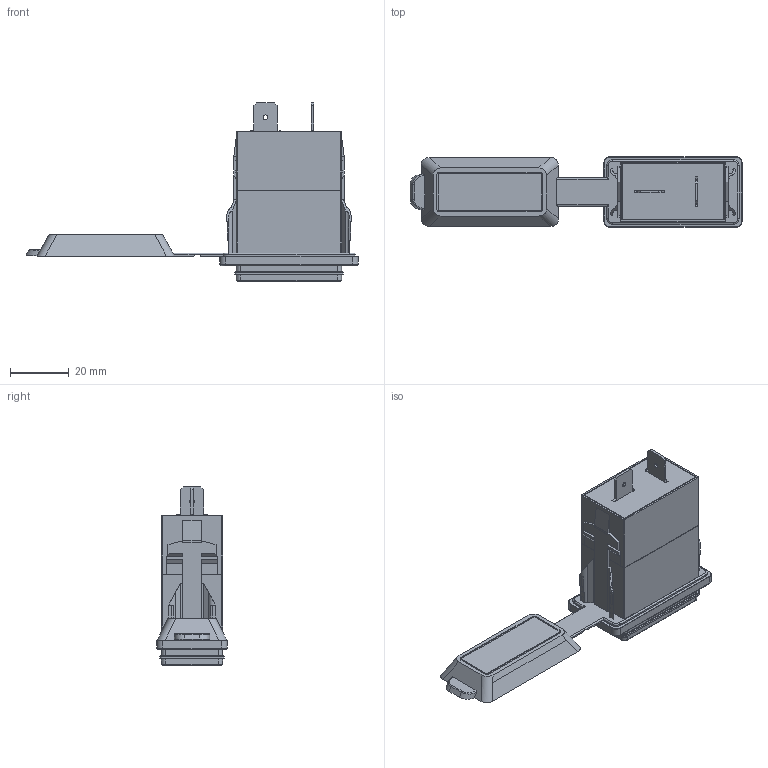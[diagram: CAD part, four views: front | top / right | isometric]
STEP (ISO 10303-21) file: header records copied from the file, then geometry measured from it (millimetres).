
FILE_DESCRIPTION(/* description */ (''),/* implementation_level */ '2;1');
FILE_NAME(/* name */ 'A3A-USB2-1-B.stp',/* time_stamp */ '2025-01-22T13:53:43-08:00',/* author */ ('tylerl'),/* organization */ (''),/* preprocessor_version */ 'ST-DEVELOPER v20',/* originating_system */ 'Autodesk Inventor 2025',/* authorisation */ '');
FILE_SCHEMA (('AUTOMOTIVE_DESIGN { 1 0 10303 214 3 1 1 }'));
Products named in the file (3): A3A-USB2-1-B; Base; USB Port
Assembly tree (3 placements, depth 2):
  A3A-USB2-1-B
    Base
    USB Port  x2
Bounding box: 113.03 x 24 x 60.6 mm (x, y, z)
Volume: 42800.1 mm3; surface area: 17138.8 mm2
Topology: 13 solids, 13 shells, 804 faces, 2167 edges, 1400 vertices
Faces by surface type: plane 537, cylinder 216, torus 28, bspline 19, sphere 4
Full cylindrical faces by diameter (mm): 0.754 x8, 1.6 x2
Entity records: 18555 total; most frequent: CARTESIAN_POINT 3449, ORIENTED_EDGE 3150, DIRECTION 3109, EDGE_CURVE 1575, LINE 1199, VECTOR 1199, VERTEX_POINT 1014, AXIS2_PLACEMENT_3D 955
